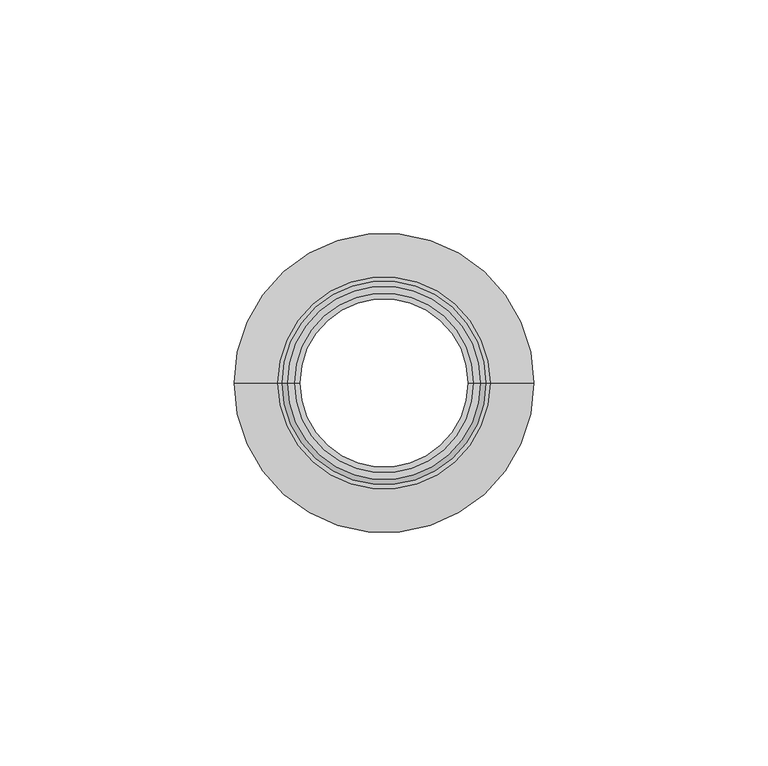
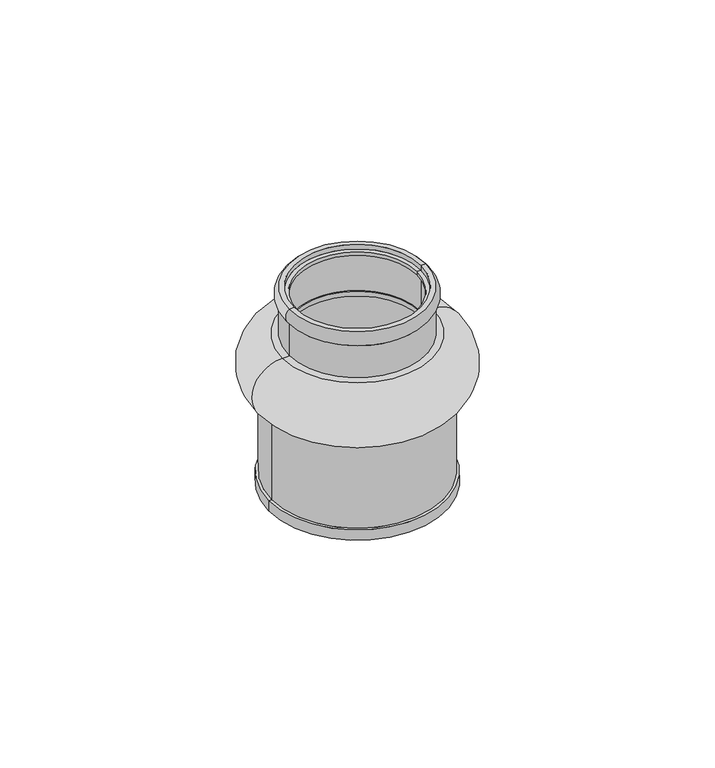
"""IFC4 building model written with IfcOpenShell, lengths in millimetres: valve geometry, Astra - Vedante Flexível Simples - CF : Astra - Vedante Flexível Simples - CF."""

from ifc_helpers import new_model, si_unit, point, frame, origin, origin_with_axes, place, context, project, spatial, polyline, circle_curve, ellipse_curve, trimmed, source, transform, mapped, element, save
from ifc_brep_helpers import plane_surface, cylinder_surface, revolved_surface, advanced_brep


def valve_a015ffae(model_context):
    return source(origin(), model_context, "Body", "AdvancedBrep", [
        advanced_brep(
        [(22.648, 0.0, 0.0), (-22.648, 0.0, 0.0), (-19.2, 0.0, 0.0), (19.2, 0.0, 0.0), (-24.5006317, 0.0, -47.402), (24.5, 0.0, -47.402), (24.5, 0.0, -1.5), (-24.5006317, 0.0, -1.5), (-26.8006317, 0.0, -47.402), (26.8, 0.0, -47.402), (-26.8006317, 0.0, -44.102), (26.8, 0.0, -44.102), (-26.0006317, 0.0, -44.102), (26.0, 0.0, -44.102), (-26.0006317, 0.0, -17.47), (26.0, 0.0, -17.47), (19.2, 0.0, -1.5), (-19.2, 0.0, -1.5), (-27.3023313, 0.0, -17.47), (27.3023313, 0.0, -17.47)],
        [
            (0, 1, circle_curve(origin_with_axes(), 22.648)),
            (1, 2),
            (2, 3, circle_curve(frame((0.0, 0.0, 0.0), z_axis=(0.0, 0.0, -1.0), x_axis=(1.0, 0.0, 0.0)), 19.2)),
            (3, 0),
            (1, 0, circle_curve(origin_with_axes(), 22.648)),
            (3, 2, circle_curve(frame((0.0, 0.0, 0.0), z_axis=(0.0, 0.0, -1.0), x_axis=(1.0, 0.0, 0.0)), 19.2)),
            (4, 5, circle_curve(frame((-0.0003158, 0.0, -47.402), z_axis=(0.0, 0.0, -1.0), x_axis=(1.0, 0.0, 0.0)), 24.5003158)),
            (5, 6),
            (6, 7, circle_curve(frame((-0.0003158, 0.0, -1.5), z_axis=(0.0, 0.0, 1.0), x_axis=(1.0, 0.0, 0.0)), 24.5003158)),
            (7, 4),
            (5, 4, circle_curve(frame((-0.0003158, 0.0, -47.402), z_axis=(0.0, 0.0, -1.0), x_axis=(1.0, 0.0, 0.0)), 24.5003158)),
            (7, 6, circle_curve(frame((-0.0003158, 0.0, -1.5), z_axis=(0.0, 0.0, 1.0), x_axis=(1.0, 0.0, 0.0)), 24.5003158)),
            (4, 8),
            (8, 9, circle_curve(frame((-0.0003158, 0.0, -47.402), z_axis=(0.0, 0.0, -1.0), x_axis=(1.0, 0.0, 0.0)), 26.8003158)),
            (9, 5),
            (9, 8, circle_curve(frame((-0.0003158, 0.0, -47.402), z_axis=(0.0, 0.0, -1.0), x_axis=(1.0, 0.0, 0.0)), 26.8003158)),
            (8, 10),
            (10, 11, circle_curve(frame((-0.0003158, 0.0, -44.102), z_axis=(0.0, 0.0, -1.0), x_axis=(1.0, 0.0, 0.0)), 26.8003158)),
            (11, 9),
            (11, 10, circle_curve(frame((-0.0003158, 0.0, -44.102), z_axis=(0.0, 0.0, -1.0), x_axis=(1.0, 0.0, 0.0)), 26.8003158)),
            (10, 12),
            (12, 13, circle_curve(frame((-0.0003158, 0.0, -44.102), z_axis=(0.0, 0.0, -1.0), x_axis=(1.0, 0.0, 0.0)), 26.0003158)),
            (13, 11),
            (13, 12, circle_curve(frame((-0.0003158, 0.0, -44.102), z_axis=(0.0, 0.0, -1.0), x_axis=(1.0, 0.0, 0.0)), 26.0003158)),
            (12, 14),
            (14, 15, circle_curve(frame((-0.0003158, 0.0, -17.47), z_axis=(0.0, 0.0, -1.0), x_axis=(1.0, 0.0, 0.0)), 26.0003158)),
            (15, 13),
            (15, 14, circle_curve(frame((-0.0003158, 0.0, -17.47), z_axis=(0.0, 0.0, -1.0), x_axis=(1.0, 0.0, 0.0)), 26.0003158)),
            (6, 16),
            (16, 17, circle_curve(frame((0.0, 0.0, -1.5), z_axis=(0.0, 0.0, 1.0), x_axis=(1.0, 0.0, 0.0)), 19.2)),
            (17, 7),
            (17, 16, circle_curve(frame((0.0, 0.0, -1.5), z_axis=(0.0, 0.0, 1.0), x_axis=(1.0, 0.0, 0.0)), 19.2)),
            (14, 18),
            (18, 19, circle_curve(frame((0.0, 0.0, -17.47), z_axis=(0.0, 0.0, -1.0), x_axis=(1.0, 0.0, 0.0)), 27.3023313)),
            (19, 15),
            (19, 18, circle_curve(frame((0.0, 0.0, -17.47), z_axis=(0.0, 0.0, -1.0), x_axis=(1.0, 0.0, 0.0)), 27.3023313)),
            (18, 1, circle_curve(frame((-22.648, 0.0, -9.355), z_axis=(0.0, 1.0, 0.0), x_axis=(-1.0, 0.0, 0.0)), 9.355)),
            (0, 19, circle_curve(frame((22.648, 0.0, -9.355), z_axis=(0.0, 1.0, 0.0), x_axis=(1.0, 0.0, 0.0)), 9.355)),
            (17, 2),
            (3, 16),
        ],
        [
            plane_surface(frame((-0.0003158, 0.0, 0.0), z_axis=(0.0, 0.0, 1.0), x_axis=(1.0, 0.0, 0.0))),
            revolved_surface(polyline([(24.5, 0.0, -1.5), (24.5, 0.0, -47.402)]), (-0.0003158, 0.0, 0.0), (0.0, 0.0, 1.0)),
            plane_surface(frame((-0.0003158, 0.0, -47.402), z_axis=(0.0, 0.0, -1.0), x_axis=(1.0, 0.0, 0.0))),
            cylinder_surface(frame((-0.0003158, 0.0, 0.0), z_axis=(0.0, 0.0, 1.0), x_axis=(1.0, 0.0, 0.0)), 26.8003158),
            plane_surface(frame((-0.0003158, 0.0, -44.102), z_axis=(0.0, 0.0, 1.0), x_axis=(1.0, 0.0, 0.0))),
            cylinder_surface(frame((-0.0003158, 0.0, 0.0), z_axis=(0.0, 0.0, 1.0), x_axis=(1.0, 0.0, 0.0)), 26.0003158),
            plane_surface(frame((-0.0003158, 0.0, -1.5), z_axis=(0.0, 0.0, -1.0), x_axis=(1.0, 0.0, 0.0))),
            plane_surface(frame((-0.0003158, 0.0, -17.47), z_axis=(0.0, 0.0, -1.0), x_axis=(1.0, 0.0, 0.0))),
            revolved_surface(trimmed(ellipse_curve(frame((22.648, 0.0, -9.355), z_axis=(0.0, -1.0, 0.0), x_axis=(1.0, 0.0, 0.0)), 9.355, 9.355), [point((27.3023313, 0.0, -17.47))], [point((22.648, 0.0, 0.0))], True, "CARTESIAN"), (0.0, 0.0, 0.0), (0.0, 0.0, 1.0)),
            revolved_surface(polyline([(19.2, 0.0, 0.0), (19.2, 0.0, -1.5)]), (0.0, 0.0, -1.7345602), (0.0, 0.0, 1.0)),
        ],
        [
            (0, [[1, 2, 3, 4]]),
            (0, [[5, -4, 6, -2]]),
            (1, [[7, 8, 9, 10]]),
            (1, [[-8, 11, -10, 12]]),
            (2, [[-7, 13, 14, 15]]),
            (2, [[-11, -15, 16, -13]]),
            (3, [[-14, 17, 18, 19]]),
            (3, [[-16, -19, 20, -17]]),
            (4, [[-18, 21, 22, 23]]),
            (4, [[-20, -23, 24, -21]]),
            (5, [[-22, 25, 26, 27]]),
            (5, [[-24, -27, 28, -25]]),
            (6, [[-9, 29, 30, 31]]),
            (6, [[-12, -31, 32, -29]]),
            (7, [[-26, 33, 34, 35]]),
            (7, [[-28, -35, 36, -33]]),
            (8, [[37, -1, 38, -34]]),
            (8, [[-37, -36, -38, -5]]),
            (9, [[39, -6, 40, -32]]),
            (9, [[-39, -30, -40, -3]]),
        ],
    ),
        advanced_brep(
        [(-20.695, 0.0, 10.457844), (20.695, 0.0, 10.457844), (20.695, 0.0, 0.0), (-20.695, 0.0, 0.0), (-20.695, 0.0, 15.0), (20.695, 0.0, 15.0), (-19.2, 0.0, 15.0), (19.2, 0.0, 15.0), (-19.2, 0.0, 13.5), (19.2, 0.0, 13.5), (-18.0, 0.0, 13.5), (18.0, 0.0, 13.5), (-18.0, 0.0, 12.35), (18.0, 0.0, 12.35), (-19.2, 0.0, 12.35), (19.2, 0.0, 12.35), (-19.2, 0.0, 0.0), (19.2, 0.0, 0.0)],
        [
            (0, 1, circle_curve(frame((0.0, 0.0, 10.457844), z_axis=(0.0, 0.0, -1.0), x_axis=(1.0, 0.0, 0.0)), 20.695)),
            (1, 2),
            (2, 3, circle_curve(origin_with_axes(), 20.695)),
            (3, 0),
            (1, 0, circle_curve(frame((0.0, 0.0, 10.457844), z_axis=(0.0, 0.0, -1.0), x_axis=(1.0, 0.0, 0.0)), 20.695)),
            (3, 2, circle_curve(origin_with_axes(), 20.695)),
            (4, 5, circle_curve(frame((0.0, 0.0, 15.0), z_axis=(0.0, 0.0, -1.0), x_axis=(1.0, 0.0, 0.0)), 20.695)),
            (5, 1, circle_curve(frame((18.820326, 0.0, 12.728922), z_axis=(0.0, 1.0, 0.0), x_axis=(1.0, 0.0, 0.0)), 2.9448596)),
            (0, 4, circle_curve(frame((-18.820326, 0.0, 12.728922), z_axis=(0.0, 1.0, 0.0), x_axis=(-1.0, 0.0, 0.0)), 2.9448596)),
            (5, 4, circle_curve(frame((0.0, 0.0, 15.0), z_axis=(0.0, 0.0, -1.0), x_axis=(1.0, 0.0, 0.0)), 20.695)),
            (6, 7, circle_curve(frame((0.0, 0.0, 15.0), z_axis=(0.0, 0.0, -1.0), x_axis=(1.0, 0.0, 0.0)), 19.2)),
            (7, 5),
            (4, 6),
            (7, 6, circle_curve(frame((0.0, 0.0, 15.0), z_axis=(0.0, 0.0, -1.0), x_axis=(1.0, 0.0, 0.0)), 19.2)),
            (8, 9, circle_curve(frame((0.0, 0.0, 13.5), z_axis=(0.0, 0.0, -1.0), x_axis=(1.0, 0.0, 0.0)), 19.2)),
            (9, 7),
            (6, 8),
            (9, 8, circle_curve(frame((0.0, 0.0, 13.5), z_axis=(0.0, 0.0, -1.0), x_axis=(1.0, 0.0, 0.0)), 19.2)),
            (10, 11, circle_curve(frame((0.0, 0.0, 13.5), z_axis=(0.0, 0.0, -1.0), x_axis=(1.0, 0.0, 0.0)), 18.0)),
            (11, 9),
            (8, 10),
            (11, 10, circle_curve(frame((0.0, 0.0, 13.5), z_axis=(0.0, 0.0, -1.0), x_axis=(1.0, 0.0, 0.0)), 18.0)),
            (12, 13, circle_curve(frame((0.0, 0.0, 12.35), z_axis=(0.0, 0.0, -1.0), x_axis=(1.0, 0.0, 0.0)), 18.0)),
            (13, 11),
            (10, 12),
            (13, 12, circle_curve(frame((0.0, 0.0, 12.35), z_axis=(0.0, 0.0, -1.0), x_axis=(1.0, 0.0, 0.0)), 18.0)),
            (14, 15, circle_curve(frame((0.0, 0.0, 12.35), z_axis=(0.0, 0.0, -1.0), x_axis=(1.0, 0.0, 0.0)), 19.2)),
            (15, 13),
            (12, 14),
            (15, 14, circle_curve(frame((0.0, 0.0, 12.35), z_axis=(0.0, 0.0, -1.0), x_axis=(1.0, 0.0, 0.0)), 19.2)),
            (16, 17, circle_curve(frame((0.0, 0.0, 0.0), z_axis=(0.0, 0.0, -1.0), x_axis=(1.0, 0.0, 0.0)), 19.2)),
            (17, 15),
            (14, 16),
            (17, 16, circle_curve(frame((0.0, 0.0, 0.0), z_axis=(0.0, 0.0, -1.0), x_axis=(1.0, 0.0, 0.0)), 19.2)),
            (2, 17),
            (16, 3),
        ],
        [
            cylinder_surface(frame((0.0, 0.0, 15.0), z_axis=(0.0, 0.0, 1.0), x_axis=(1.0, 0.0, 0.0)), 20.695),
            revolved_surface(trimmed(ellipse_curve(frame((18.820326, 0.0, 12.728922), z_axis=(0.0, -1.0, 0.0), x_axis=(1.0, 0.0, 0.0)), 2.9448596, 2.9448596), [point((20.695, 0.0, 10.457844))], [point((20.695, 0.0, 15.0))], True, "CARTESIAN"), (0.0, 0.0, 15.0), (0.0, 0.0, 1.0)),
            plane_surface(frame((0.0, 0.0, 15.0), z_axis=(0.0, 0.0, 1.0), x_axis=(1.0, 0.0, 0.0))),
            revolved_surface(polyline([(19.2, 0.0, 15.0), (19.2, 0.0, 13.5)]), (0.0, 0.0, 15.0), (0.0, 0.0, 1.0)),
            plane_surface(frame((0.0, 0.0, 13.5), z_axis=(0.0, 0.0, 1.0), x_axis=(1.0, 0.0, 0.0))),
            revolved_surface(polyline([(18.0, 0.0, 13.5), (18.0, 0.0, 12.35)]), (0.0, 0.0, 15.0), (0.0, 0.0, 1.0)),
            plane_surface(frame((0.0, 0.0, 12.35), z_axis=(0.0, 0.0, -1.0), x_axis=(1.0, 0.0, 0.0))),
            revolved_surface(polyline([(19.2, 0.0, 12.35), (19.2, 0.0, 0.0)]), (0.0, 0.0, 15.0), (0.0, 0.0, 1.0)),
            plane_surface(frame((0.0, 0.0, 0.0), z_axis=(0.0, 0.0, -1.0), x_axis=(1.0, 0.0, 0.0))),
        ],
        [
            (0, [[1, 2, 3, 4]]),
            (0, [[5, -4, 6, -2]]),
            (1, [[7, 8, -1, 9]]),
            (1, [[10, -9, -5, -8]]),
            (2, [[11, 12, -7, 13]]),
            (2, [[14, -13, -10, -12]]),
            (3, [[15, 16, -11, 17]]),
            (3, [[18, -17, -14, -16]]),
            (4, [[19, 20, -15, 21]]),
            (4, [[22, -21, -18, -20]]),
            (5, [[23, 24, -19, 25]]),
            (5, [[26, -25, -22, -24]]),
            (6, [[27, 28, -23, 29]]),
            (6, [[30, -29, -26, -28]]),
            (7, [[31, 32, -27, 33]]),
            (7, [[34, -33, -30, -32]]),
            (8, [[-3, 35, -31, 36]]),
            (8, [[-6, -36, -34, -35]]),
        ],
    ),
    ])


if __name__ == "__main__":
    model = new_model("IFC4")
    model_context = context("Model", 3, world=origin())
    ifc_project = project(units=[si_unit("LENGTHUNIT", "METRE", prefix="MILLI")], contexts=[model_context])
    site = spatial("IfcSite", under=ifc_project)
    building = spatial("IfcBuilding", under=site)
    placement = place(None, origin())
    valve_shape = valve_a015ffae(model_context)
    element("IfcValve", 1, ObjectType="Astra - Vedante Flexível Simples - CF : Astra - Vedante Flexível Simples - CF", at=placement, inside=building, context=model_context, shape_type="MappedRepresentation", body=[
        mapped(valve_shape, transform((0.0, 0.0, 0.0), x_axis=(1.0, 0.0, 0.0), y_axis=(0.0, 1.0, 0.0), z_axis=(0.0, 0.0, 1.0))),
    ])
    save(model, "model.ifc")
